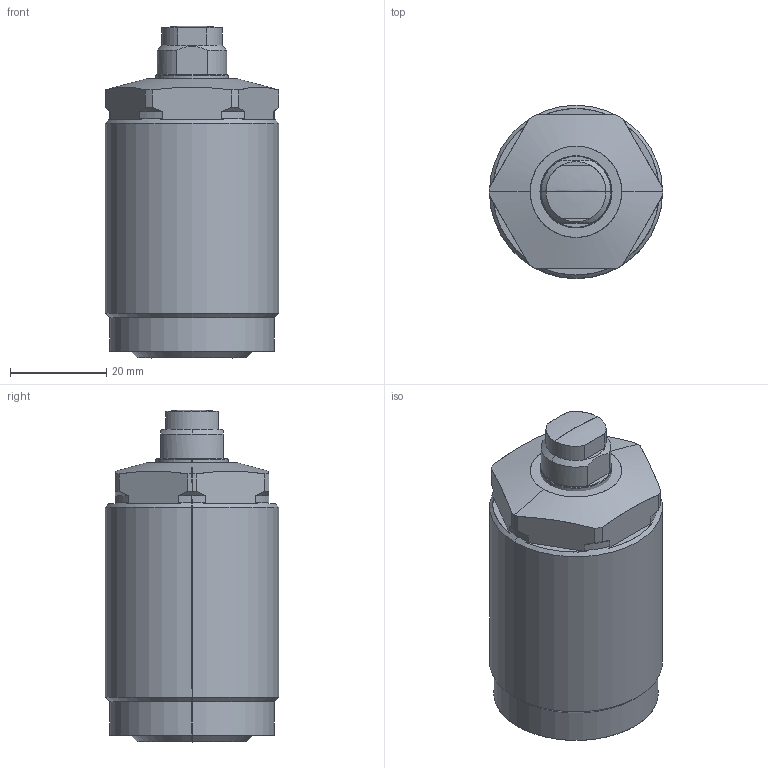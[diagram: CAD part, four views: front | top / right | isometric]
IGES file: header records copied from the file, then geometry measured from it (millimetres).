
Start section: SolidWorks IGES file using analytic representation for surfaces
Global section: file name: C:\Documents and Settings\nijil\My Documents\Clasys1\LD Series\36\0201-0301.IGS; native system: SolidWorks 2010; preprocessor: SolidWorks 2010; author: nijil; date: 130723.104632; units: millimetre
Bounding box: 36 x 36 x 69 mm (x, y, z)
Surface area: 9160.5 mm2 (no closed solid volume)
Topology: 0 solids, 0 shells, 83 faces, 1021 edges, 1020 vertices
Faces by surface type: revolution 53, bspline 30
